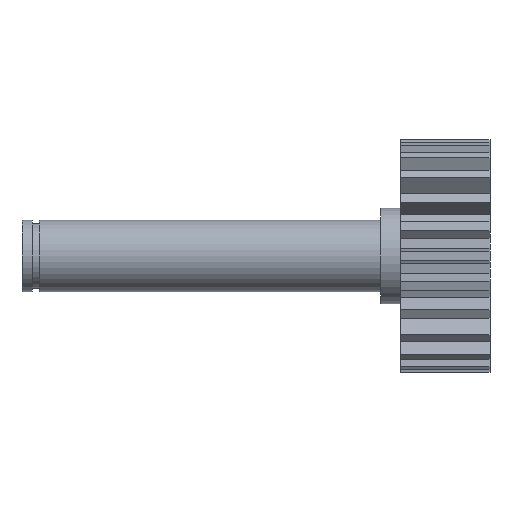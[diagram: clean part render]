
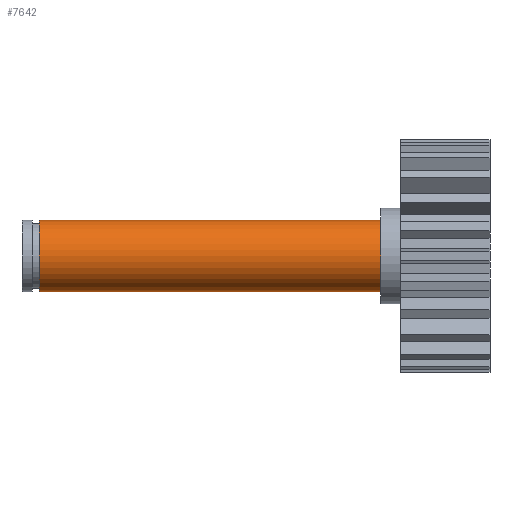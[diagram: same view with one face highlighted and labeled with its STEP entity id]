
A CAD part, left-side view. The second image highlights one B-rep face of the part: STEP entity #7642.
In plain terms, the highlighted cylindrical face has radius 6 mm (diameter 12 mm), a full revolution.
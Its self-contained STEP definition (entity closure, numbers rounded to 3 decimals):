
#7573 = PLANE('',#7574);
#7574 = AXIS2_PLACEMENT_3D('',#7575,#7576,#7577);
#7575 = CARTESIAN_POINT('',(187.272,26.8,-168.621));
#7576 = DIRECTION('',(0.,1.,0.));
#7577 = DIRECTION('',(0.,-0.,1.));
#7614 = EDGE_CURVE('',#7615,#7615,#7617,.T.);
#7615 = VERTEX_POINT('',#7616);
#7616 = CARTESIAN_POINT('',(187.272,26.8,-162.621));
#7617 = SURFACE_CURVE('',#7618,(#7623,#7630),.PCURVE_S1.);
#7618 = CIRCLE('',#7619,6.);
#7619 = AXIS2_PLACEMENT_3D('',#7620,#7621,#7622);
#7620 = CARTESIAN_POINT('',(187.272,26.8,-168.621));
#7621 = DIRECTION('',(0.,1.,0.));
#7622 = DIRECTION('',(0.,-0.,1.));
#7623 = PCURVE('',#7573,#7624);
#7624 = DEFINITIONAL_REPRESENTATION('',(#7625),#7629);
#7625 = CIRCLE('',#7626,6.);
#7626 = AXIS2_PLACEMENT_2D('',#7627,#7628);
#7627 = CARTESIAN_POINT('',(0.,0.));
#7628 = DIRECTION('',(1.,0.));
#7629 = ( GEOMETRIC_REPRESENTATION_CONTEXT(2) 
PARAMETRIC_REPRESENTATION_CONTEXT() REPRESENTATION_CONTEXT('2D SPACE',''
  ) );
#7630 = PCURVE('',#7631,#7636);
#7631 = CYLINDRICAL_SURFACE('',#7632,6.);
#7632 = AXIS2_PLACEMENT_3D('',#7633,#7634,#7635);
#7633 = CARTESIAN_POINT('',(187.272,23.5,-168.621));
#7634 = DIRECTION('',(0.,1.,0.));
#7635 = DIRECTION('',(0.,-0.,1.));
#7636 = DEFINITIONAL_REPRESENTATION('',(#7637),#7641);
#7637 = LINE('',#7638,#7639);
#7638 = CARTESIAN_POINT('',(0.,3.3));
#7639 = VECTOR('',#7640,1.);
#7640 = DIRECTION('',(1.,0.));
#7641 = ( GEOMETRIC_REPRESENTATION_CONTEXT(2) 
PARAMETRIC_REPRESENTATION_CONTEXT() REPRESENTATION_CONTEXT('2D SPACE',''
  ) );
#7642 = ADVANCED_FACE('',(#7643),#7631,.T.);
#7643 = FACE_BOUND('',#7644,.T.);
#7644 = EDGE_LOOP('',(#7645,#7646,#7669,#7696));
#7645 = ORIENTED_EDGE('',*,*,#7614,.T.);
#7646 = ORIENTED_EDGE('',*,*,#7647,.T.);
#7647 = EDGE_CURVE('',#7615,#7648,#7650,.T.);
#7648 = VERTEX_POINT('',#7649);
#7649 = CARTESIAN_POINT('',(187.272,84.1,-162.621));
#7650 = SEAM_CURVE('',#7651,(#7655,#7662),.PCURVE_S1.);
#7651 = LINE('',#7652,#7653);
#7652 = CARTESIAN_POINT('',(187.272,23.5,-162.621));
#7653 = VECTOR('',#7654,1.);
#7654 = DIRECTION('',(0.,1.,0.));
#7655 = PCURVE('',#7631,#7656);
#7656 = DEFINITIONAL_REPRESENTATION('',(#7657),#7661);
#7657 = LINE('',#7658,#7659);
#7658 = CARTESIAN_POINT('',(0.,-0.));
#7659 = VECTOR('',#7660,1.);
#7660 = DIRECTION('',(0.,1.));
#7661 = ( GEOMETRIC_REPRESENTATION_CONTEXT(2) 
PARAMETRIC_REPRESENTATION_CONTEXT() REPRESENTATION_CONTEXT('2D SPACE',''
  ) );
#7662 = PCURVE('',#7631,#7663);
#7663 = DEFINITIONAL_REPRESENTATION('',(#7664),#7668);
#7664 = LINE('',#7665,#7666);
#7665 = CARTESIAN_POINT('',(6.283,-0.));
#7666 = VECTOR('',#7667,1.);
#7667 = DIRECTION('',(0.,1.));
#7668 = ( GEOMETRIC_REPRESENTATION_CONTEXT(2) 
PARAMETRIC_REPRESENTATION_CONTEXT() REPRESENTATION_CONTEXT('2D SPACE',''
  ) );
#7669 = ORIENTED_EDGE('',*,*,#7670,.F.);
#7670 = EDGE_CURVE('',#7648,#7648,#7671,.T.);
#7671 = SURFACE_CURVE('',#7672,(#7677,#7684),.PCURVE_S1.);
#7672 = CIRCLE('',#7673,6.);
#7673 = AXIS2_PLACEMENT_3D('',#7674,#7675,#7676);
#7674 = CARTESIAN_POINT('',(187.272,84.1,-168.621));
#7675 = DIRECTION('',(0.,1.,0.));
#7676 = DIRECTION('',(0.,-0.,1.));
#7677 = PCURVE('',#7631,#7678);
#7678 = DEFINITIONAL_REPRESENTATION('',(#7679),#7683);
#7679 = LINE('',#7680,#7681);
#7680 = CARTESIAN_POINT('',(0.,60.6));
#7681 = VECTOR('',#7682,1.);
#7682 = DIRECTION('',(1.,0.));
#7683 = ( GEOMETRIC_REPRESENTATION_CONTEXT(2) 
PARAMETRIC_REPRESENTATION_CONTEXT() REPRESENTATION_CONTEXT('2D SPACE',''
  ) );
#7684 = PCURVE('',#7685,#7690);
#7685 = PLANE('',#7686);
#7686 = AXIS2_PLACEMENT_3D('',#7687,#7688,#7689);
#7687 = CARTESIAN_POINT('',(187.272,84.1,-168.621));
#7688 = DIRECTION('',(0.,1.,0.));
#7689 = DIRECTION('',(0.,-0.,1.));
#7690 = DEFINITIONAL_REPRESENTATION('',(#7691),#7695);
#7691 = CIRCLE('',#7692,6.);
#7692 = AXIS2_PLACEMENT_2D('',#7693,#7694);
#7693 = CARTESIAN_POINT('',(0.,0.));
#7694 = DIRECTION('',(1.,0.));
#7695 = ( GEOMETRIC_REPRESENTATION_CONTEXT(2) 
PARAMETRIC_REPRESENTATION_CONTEXT() REPRESENTATION_CONTEXT('2D SPACE',''
  ) );
#7696 = ORIENTED_EDGE('',*,*,#7647,.F.);
